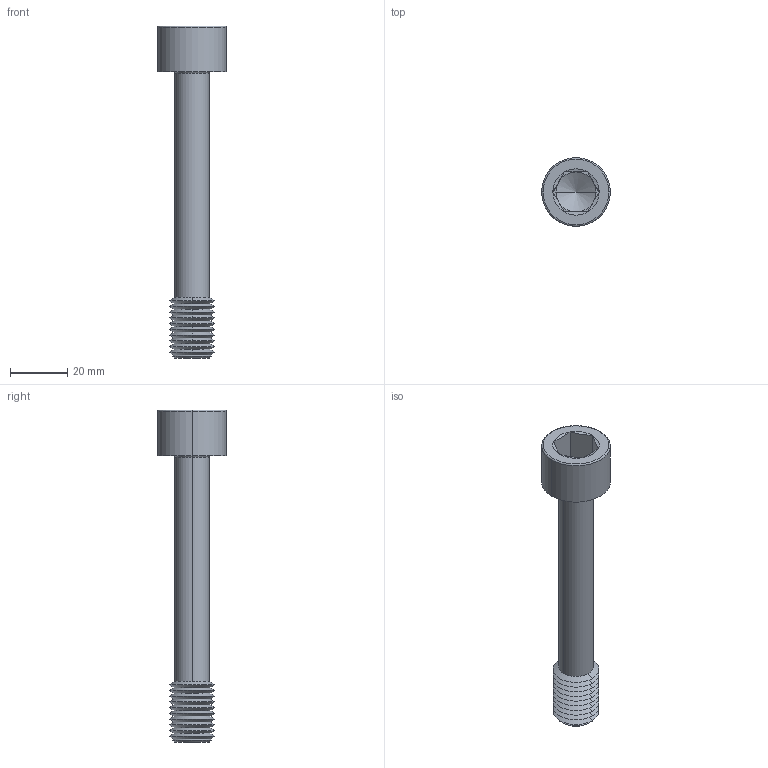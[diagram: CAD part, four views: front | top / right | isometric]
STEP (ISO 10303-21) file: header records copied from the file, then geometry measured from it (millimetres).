
FILE_DESCRIPTION (( 'STEP AP203' ), '1' );
FILE_NAME ('P0154.160-100-BL.step', '2024-06-17T11:39:33', ( '' ), ( '' ), 'SwSTEP 2.0', 'SolidWorks 2019', '' );
FILE_SCHEMA (( 'CONFIG_CONTROL_DESIGN' ));
Length unit declared in the file: millimetre
Products named in the file (1): P0154.160-100-BL
Bounding box: 24 x 24 x 116 mm (x, y, z)
Volume: 16933.9 mm3; surface area: 7637.3 mm2
Topology: 1 solids, 1 shells, 75 faces, 152 edges, 79 vertices
Faces by surface type: cone 52, plane 15, torus 4, cylinder 4
Entity records: 1991 total; most frequent: DIRECTION 372, CARTESIAN_POINT 335, ORIENTED_EDGE 300, AXIS2_PLACEMENT_3D 152, EDGE_CURVE 150, VERTEX_POINT 79, EDGE_LOOP 77, CIRCLE 76
